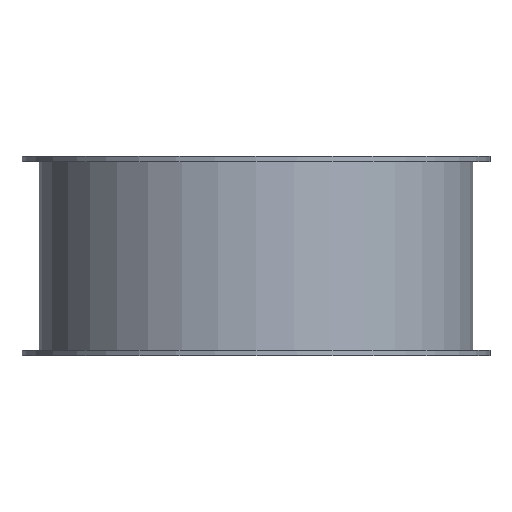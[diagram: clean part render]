
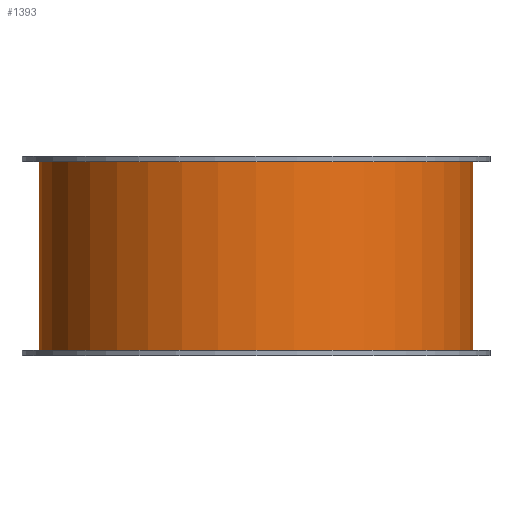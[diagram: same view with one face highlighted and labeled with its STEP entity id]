
A CAD part, left-side view. The second image highlights one B-rep face of the part: STEP entity #1393.
In plain terms, the highlighted cylindrical face has radius 76 mm (diameter 152 mm), a full revolution.
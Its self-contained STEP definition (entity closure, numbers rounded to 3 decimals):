
#938=CARTESIAN_POINT('',(-76.0,0.,-33.0));
#939=VERTEX_POINT('',#938);
#940=CARTESIAN_POINT('',(0.0,0.0,-33.0));
#941=DIRECTION('',(0.0,0.0,1.0));
#942=DIRECTION('',(-1.0,0.0,0.0));
#943=AXIS2_PLACEMENT_3D('',#940,#941,#942);
#944=CIRCLE('',#943,76.0);
#945=EDGE_CURVE('',#939,#939,#944,.T.);
#986=CARTESIAN_POINT('',(76.0,0.,33.0));
#987=VERTEX_POINT('',#986);
#988=CARTESIAN_POINT('',(0.0,0.0,33.0));
#989=DIRECTION('',(0.0,0.0,-1.0));
#990=DIRECTION('',(-1.0,0.0,0.0));
#991=AXIS2_PLACEMENT_3D('',#988,#989,#990);
#992=CIRCLE('',#991,76.0);
#993=EDGE_CURVE('',#987,#987,#992,.T.);
#1044=CARTESIAN_POINT('',(73.321,-20.,8.));
#1045=VERTEX_POINT('',#1044);
#1046=CARTESIAN_POINT('',(73.321,20.,8.));
#1047=VERTEX_POINT('',#1046);
#1048=CARTESIAN_POINT('',(0.0,0.0,8.));
#1049=DIRECTION('',(0.0,0.0,1.0));
#1050=DIRECTION('',(-1.0,0.0,0.0));
#1051=AXIS2_PLACEMENT_3D('',#1048,#1049,#1050);
#1052=CIRCLE('',#1051,76.0);
#1053=EDGE_CURVE('',#1045,#1047,#1052,.T.);
#1088=CARTESIAN_POINT('',(71.77,-25.0,3.));
#1089=VERTEX_POINT('',#1088);
#1090=CARTESIAN_POINT('',(0.0,0.0,28.));
#1091=DIRECTION('',(0.0,-0.707,0.707));
#1092=DIRECTION('',(0.0,-0.707,-0.707));
#1093=AXIS2_PLACEMENT_3D('',#1090,#1091,#1092);
#1094=ELLIPSE('',#1093,107.48,76.0);
#1095=EDGE_CURVE('',#1089,#1045,#1094,.T.);
#1120=CARTESIAN_POINT('',(71.77,25.0,3.));
#1121=VERTEX_POINT('',#1120);
#1122=CARTESIAN_POINT('',(0.0,0.0,28.));
#1123=DIRECTION('',(0.0,0.707,0.707));
#1124=DIRECTION('',(0.0,-0.707,0.707));
#1125=AXIS2_PLACEMENT_3D('',#1122,#1123,#1124);
#1126=ELLIPSE('',#1125,107.48,76.0);
#1127=EDGE_CURVE('',#1047,#1121,#1126,.T.);
#1152=CARTESIAN_POINT('',(0.0,-76.0,3.));
#1153=VERTEX_POINT('',#1152);
#1154=CARTESIAN_POINT('',(0.0,0.0,3.));
#1155=DIRECTION('',(0.0,0.0,1.0));
#1156=DIRECTION('',(-1.0,0.0,0.0));
#1157=AXIS2_PLACEMENT_3D('',#1154,#1155,#1156);
#1158=CIRCLE('',#1157,76.0);
#1159=EDGE_CURVE('',#1153,#1089,#1158,.T.);
#1184=CARTESIAN_POINT('',(0.0,76.0,3.));
#1185=VERTEX_POINT('',#1184);
#1186=CARTESIAN_POINT('',(0.0,0.0,3.));
#1187=DIRECTION('',(0.0,0.0,1.0));
#1188=DIRECTION('',(-1.0,0.0,0.0));
#1189=AXIS2_PLACEMENT_3D('',#1186,#1187,#1188);
#1190=CIRCLE('',#1189,76.0);
#1191=EDGE_CURVE('',#1121,#1185,#1190,.T.);
#1216=CARTESIAN_POINT('',(0.0,76.0,-3.));
#1217=VERTEX_POINT('',#1216);
#1218=CARTESIAN_POINT('',(0.0,-76.0,-3.));
#1219=VERTEX_POINT('',#1218);
#1220=CARTESIAN_POINT('',(0.0,0.0,-3.));
#1221=DIRECTION('',(0.0,0.0,-1.0));
#1222=DIRECTION('',(-1.0,0.0,0.0));
#1223=AXIS2_PLACEMENT_3D('',#1220,#1221,#1222);
#1224=CIRCLE('',#1223,76.0);
#1225=EDGE_CURVE('',#1217,#1219,#1224,.T.);
#1257=CARTESIAN_POINT('',(0.0,76.0,-3.));
#1258=DIRECTION('',(0.0,0.0,1.0));
#1259=VECTOR('',#1258,6.);
#1260=LINE('',#1257,#1259);
#1261=EDGE_CURVE('',#1217,#1185,#1260,.T.);
#1279=CARTESIAN_POINT('',(0.0,-76.0,-3.));
#1280=DIRECTION('',(0.0,0.0,1.0));
#1281=VECTOR('',#1280,6.);
#1282=LINE('',#1279,#1281);
#1283=EDGE_CURVE('',#1219,#1153,#1282,.T.);
#1372=CARTESIAN_POINT('',(0.0,0.0,0.0));
#1373=DIRECTION('',(0.0,0.0,1.0));
#1374=DIRECTION('',(-1.0,0.0,0.0));
#1375=AXIS2_PLACEMENT_3D('',#1372,#1373,#1374);
#1376=CYLINDRICAL_SURFACE('',#1375,76.0);
#1377=ORIENTED_EDGE('',*,*,#945,.T.);
#1378=EDGE_LOOP('',(#1377));
#1379=FACE_OUTER_BOUND('',#1378,.T.);
#1380=ORIENTED_EDGE('',*,*,#993,.T.);
#1381=EDGE_LOOP('',(#1380));
#1382=FACE_BOUND('',#1381,.T.);
#1383=ORIENTED_EDGE('',*,*,#1225,.T.);
#1384=ORIENTED_EDGE('',*,*,#1283,.T.);
#1385=ORIENTED_EDGE('',*,*,#1159,.T.);
#1386=ORIENTED_EDGE('',*,*,#1095,.T.);
#1387=ORIENTED_EDGE('',*,*,#1053,.T.);
#1388=ORIENTED_EDGE('',*,*,#1127,.T.);
#1389=ORIENTED_EDGE('',*,*,#1191,.T.);
#1390=ORIENTED_EDGE('',*,*,#1261,.F.);
#1391=EDGE_LOOP('',(#1383,#1384,#1385,#1386,#1387,#1388,#1389,#1390));
#1392=FACE_BOUND('',#1391,.T.);
#1393=ADVANCED_FACE('',(#1379,#1382,#1392),#1376,.T.);
